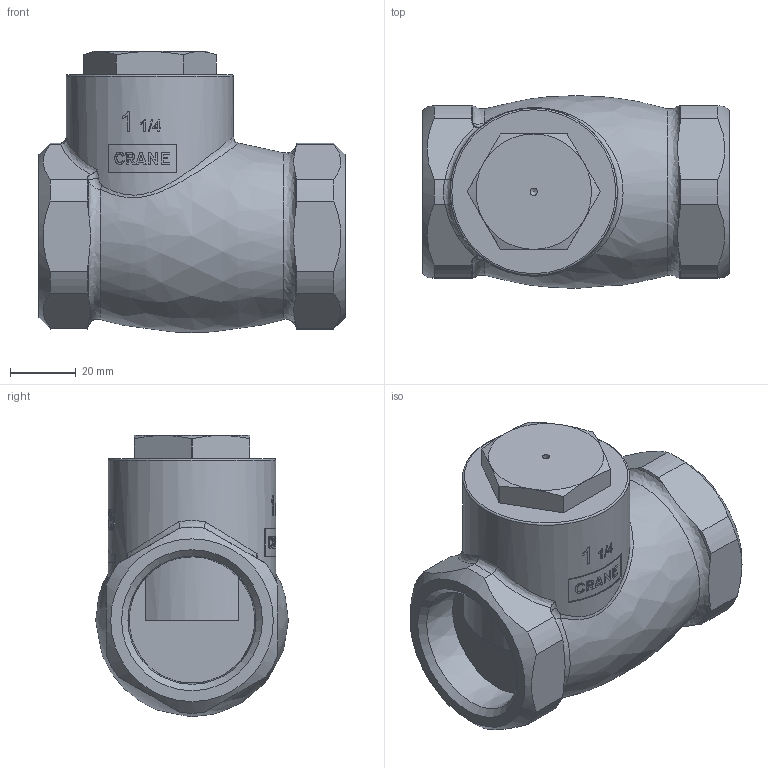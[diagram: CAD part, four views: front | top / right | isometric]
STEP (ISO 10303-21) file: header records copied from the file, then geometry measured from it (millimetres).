
FILE_DESCRIPTION((''),'2;1');
FILE_NAME('P:\Fastrack\53972_CRANE 3D\D142-138\Workspace\Check Valves\D138_1 1-4in\D138_1 1-4in.stp','2011-03-03T10:04:55',('btaylor'),(''),'Autodesk Inventor 2008','Autodesk Inventor 2008','');
FILE_SCHEMA(('AUTOMOTIVE_DESIGN { 1 0 10303 214 1 1 1 1 }'));
Length unit declared in the file: millimetre
Products named in the file (1): D138_1 1-4in
Bounding box: 93 x 58.4 x 85.2 mm (x, y, z)
Volume: 223577.3 mm3; surface area: 36640.2 mm2
Topology: 1 solids, 2 shells, 421 faces, 1167 edges, 774 vertices
Faces by surface type: bspline 208, plane 127, cylinder 56, cone 28, torus 1, sphere 1
Full cylindrical faces by diameter (mm): 2.2 x1, 37 x1, 50.7 x1
Entity records: 51771 total; most frequent: CARTESIAN_POINT 42301, ORIENTED_EDGE 2286, DIRECTION 1173, EDGE_CURVE 1143, VERTEX_POINT 766, B_SPLINE_CURVE_WITH_KNOTS 522, EDGE_LOOP 461, STYLED_ITEM 422
